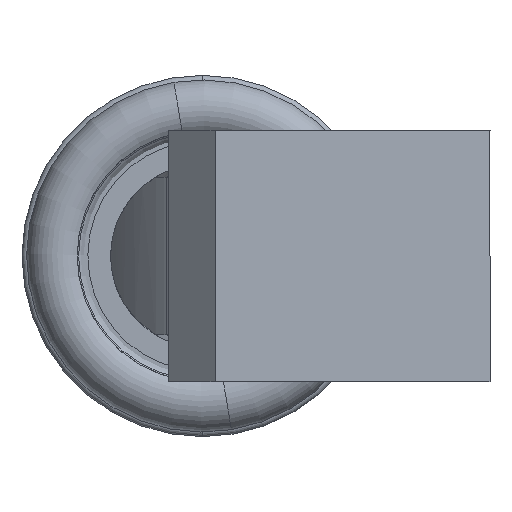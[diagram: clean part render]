
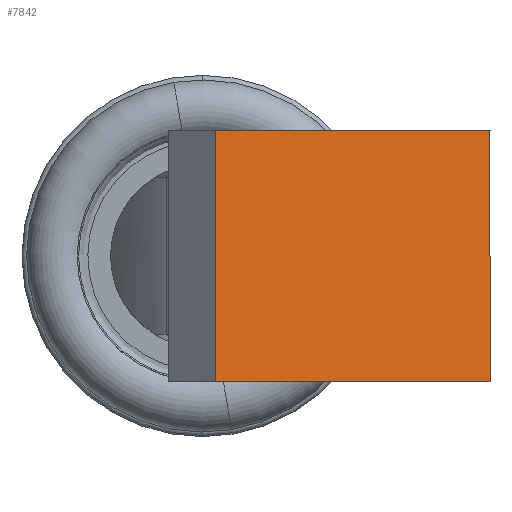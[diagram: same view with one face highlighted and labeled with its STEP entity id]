
A CAD part, left-side view. The second image highlights one B-rep face of the part: STEP entity #7842.
In plain terms, the highlighted planar face has unit normal (-0.998, -0.07, 0).
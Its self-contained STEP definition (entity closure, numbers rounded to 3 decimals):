
#349 = LINE ( 'NONE', #11806, #7120 ) ;
#390 = VERTEX_POINT ( 'NONE', #18183 ) ;
#1982 = ORIENTED_EDGE ( 'NONE', *, *, #19509, .F. ) ;
#2820 = DIRECTION ( 'NONE',  ( -0.07, 0.998, 0. ) ) ;
#4533 = VECTOR ( 'NONE', #19778, 1000. ) ;
#4876 = CARTESIAN_POINT ( 'NONE',  ( -123.922, -8.666, -12.5 ) ) ;
#6000 = EDGE_CURVE ( 'NONE', #390, #20249, #12502, .T. ) ;
#6510 = VERTEX_POINT ( 'NONE', #23065 ) ;
#7120 = VECTOR ( 'NONE', #17716, 1000. ) ;
#7842 = ADVANCED_FACE ( 'NONE', ( #17243 ), #11595, .F. ) ;
#10749 = CARTESIAN_POINT ( 'NONE',  ( -123.872, -9.384, -12.5 ) ) ;
#11595 = PLANE ( 'NONE',  #15142 ) ;
#11806 = CARTESIAN_POINT ( 'NONE',  ( -123.922, -8.666, 4.1 ) ) ;
#12408 = ORIENTED_EDGE ( 'NONE', *, *, #24559, .T. ) ;
#12502 = LINE ( 'NONE', #20331, #16338 ) ;
#12655 = DIRECTION ( 'NONE',  ( 0., 0., 1. ) ) ;
#14646 = VERTEX_POINT ( 'NONE', #24025 ) ;
#15142 = AXIS2_PLACEMENT_3D ( 'NONE', #4876, #25017, #23105 ) ;
#15654 = VECTOR ( 'NONE', #12655, 1000. ) ;
#15786 = LINE ( 'NONE', #17851, #4533 ) ;
#15824 = ORIENTED_EDGE ( 'NONE', *, *, #21841, .T. ) ;
#16338 = VECTOR ( 'NONE', #2820, 1000. ) ;
#16404 = ORIENTED_EDGE ( 'NONE', *, *, #6000, .F. ) ;
#17243 = FACE_OUTER_BOUND ( 'NONE', #17516, .T. ) ;
#17516 = EDGE_LOOP ( 'NONE', ( #16404, #15824, #12408, #1982 ) ) ;
#17716 = DIRECTION ( 'NONE',  ( -0.07, 0.998, 0. ) ) ;
#17851 = CARTESIAN_POINT ( 'NONE',  ( -124.5, -0.406, -12.5 ) ) ;
#18061 = LINE ( 'NONE', #10749, #15654 ) ;
#18183 = CARTESIAN_POINT ( 'NONE',  ( -123.872, -9.384, -4.1 ) ) ;
#19509 = EDGE_CURVE ( 'NONE', #20249, #14646, #15786, .T. ) ;
#19778 = DIRECTION ( 'NONE',  ( 0., 0., 1. ) ) ;
#20249 = VERTEX_POINT ( 'NONE', #22373 ) ;
#20331 = CARTESIAN_POINT ( 'NONE',  ( -123.922, -8.666, -4.1 ) ) ;
#21841 = EDGE_CURVE ( 'NONE', #390, #6510, #18061, .T. ) ;
#22373 = CARTESIAN_POINT ( 'NONE',  ( -124.5, -0.406, -4.1 ) ) ;
#23065 = CARTESIAN_POINT ( 'NONE',  ( -123.872, -9.384, 4.1 ) ) ;
#23105 = DIRECTION ( 'NONE',  ( -0.07, 0.998, 0. ) ) ;
#24025 = CARTESIAN_POINT ( 'NONE',  ( -124.5, -0.406, 4.1 ) ) ;
#24559 = EDGE_CURVE ( 'NONE', #6510, #14646, #349, .T. ) ;
#25017 = DIRECTION ( 'NONE',  ( 0.998, 0.07, 0. ) ) ;
